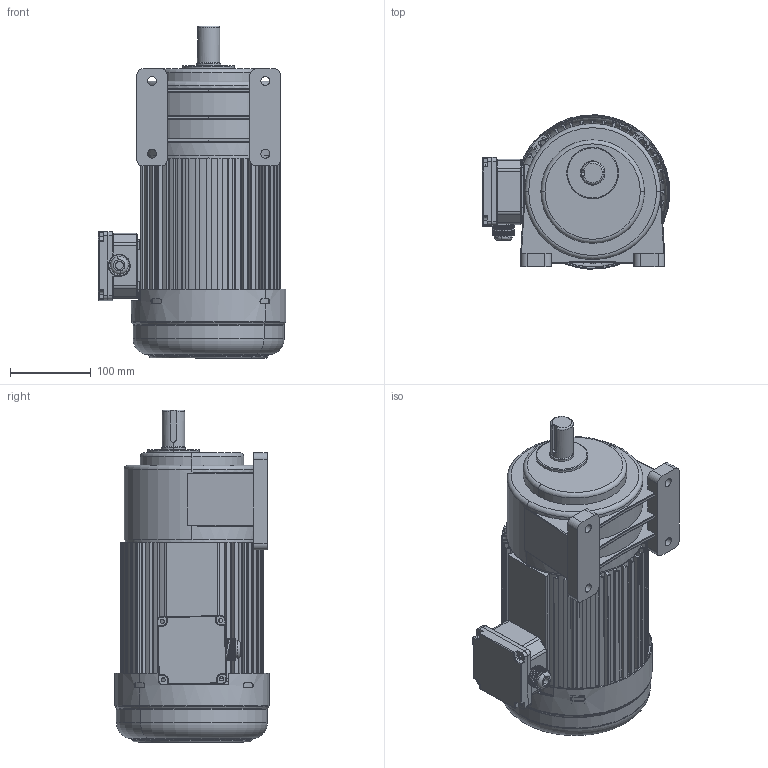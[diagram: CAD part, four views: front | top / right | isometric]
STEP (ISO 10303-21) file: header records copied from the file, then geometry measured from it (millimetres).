
FILE_DESCRIPTION (( 'STEP AP203' ), '1' );
FILE_NAME ('1500W饜3#拏宒.STEP', '2020-04-15T02:23:05', ( 'china' ), ( 'china' ), 'SwSTEP 2.0', 'SolidWorks 2019', '' );
FILE_SCHEMA (( 'CONFIG_CONTROL_DESIGN' ));
Length unit declared in the file: millimetre
Products named in the file (8): 蜊輛綴諉盄碟釱3; 諉芛; 蜊輛綴諉盄碟裔3; 1500W拏宒3#眊极; 1500W儂褲; 1500W饜3#拏宒; 1500W綴傷裔; 瑞欶
Assembly tree (7 placements, depth 2):
  1500W饜3#拏宒
    1500W儂褲
    1500W綴傷裔
    瑞欶
    蜊輛綴諉盄碟釱3
    諉芛
    蜊輛綴諉盄碟裔3
    1500W拏宒3#眊极
Bounding box: 231.88 x 190.8 x 410.45 mm (x, y, z)
Volume: 3394932.9 mm3; surface area: 763371.5 mm2
Topology: 7 solids, 7 shells, 2500 faces, 6794 edges, 4359 vertices
Faces by surface type: plane 1180, cylinder 800, bspline 243, torus 154, cone 123
Entity records: 92642 total; most frequent: CARTESIAN_POINT 28971, ORIENTED_EDGE 13560, DIRECTION 12560, EDGE_CURVE 6780, VERTEX_POINT 4359, AXIS2_PLACEMENT_3D 4216, VECTOR 4128, LINE 4128
